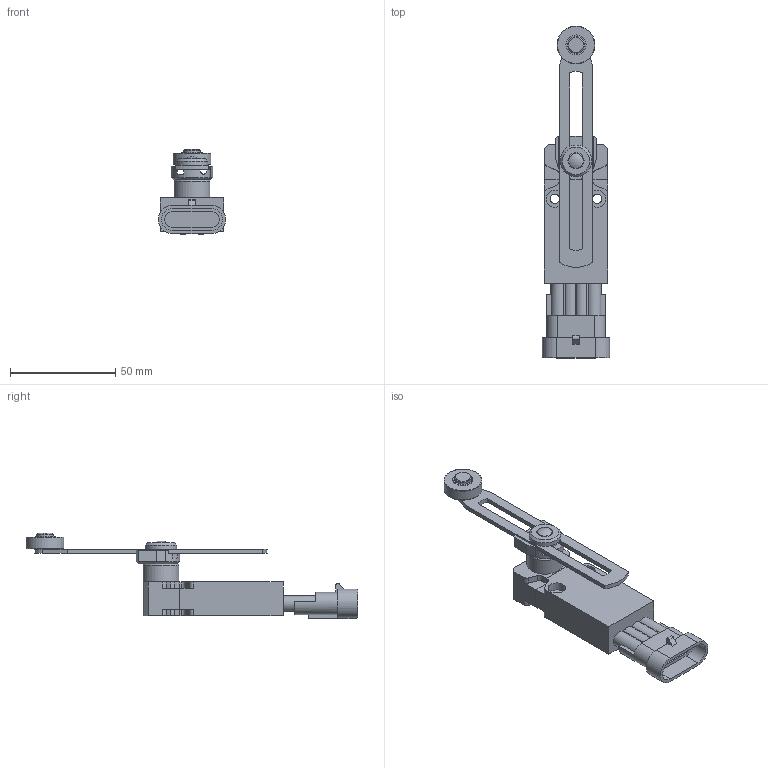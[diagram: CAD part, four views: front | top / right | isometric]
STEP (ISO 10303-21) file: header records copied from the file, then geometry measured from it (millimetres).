
FILE_DESCRIPTION(/* description */ (''),/* implementation_level */ '2;1');
FILE_NAME(/* name */ 'C:\Users\servizio.tecnico\Desktop\CADENAS\3D\EP1_STP\STP_EP1_G51A.stp',/* time_stamp */ '2017-09-04T10:11:41+02:00',/* author */ ('servizio.tecnico'),/* organization */ (''),/* preprocessor_version */ 'ST-DEVELOPER v16.1',/* originating_system */ 'Autodesk Inventor 2016',/* authorisation */ '');
FILE_SCHEMA (('AUTOMOTIVE_DESIGN { 1 0 10303 214 3 1 1 }'));
Length unit declared in the file: millimetre
Products named in the file (3): Product; EP1G51-A; BASE ASSI 
Assembly tree (2 placements, depth 3):
  BASE ASSI 
    EP1G51-A
      Product
Bounding box: 32 x 157.5 x 40.6 mm (x, y, z)
Volume: 43114.8 mm3; surface area: 19204.5 mm2
Topology: 5 solids, 5 shells, 227 faces, 577 edges, 379 vertices
Faces by surface type: plane 152, cylinder 68, torus 3, cone 3, sphere 1
Full cylindrical faces by diameter (mm): 4.4 x2, 6 x2, 7 x1, 7.6 x1, 8 x1, 8.2 x4, 9.5 x2, 11 x1, 15 x1, 17 x1, 18 x1
Entity records: 6900 total; most frequent: CARTESIAN_POINT 1179, DIRECTION 1166, ORIENTED_EDGE 1104, EDGE_CURVE 552, LINE 400, VECTOR 400, AXIS2_PLACEMENT_3D 383, VERTEX_POINT 376
